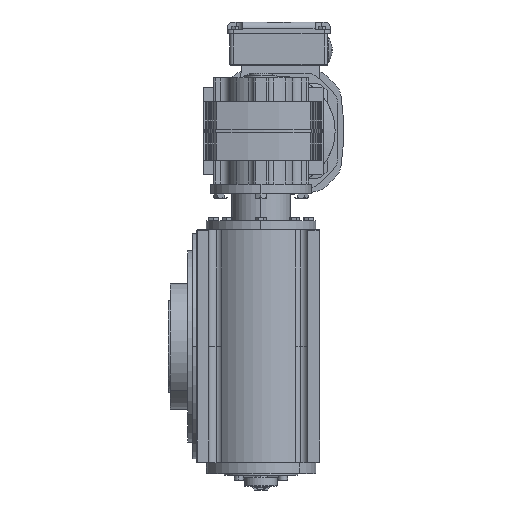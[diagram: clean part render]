
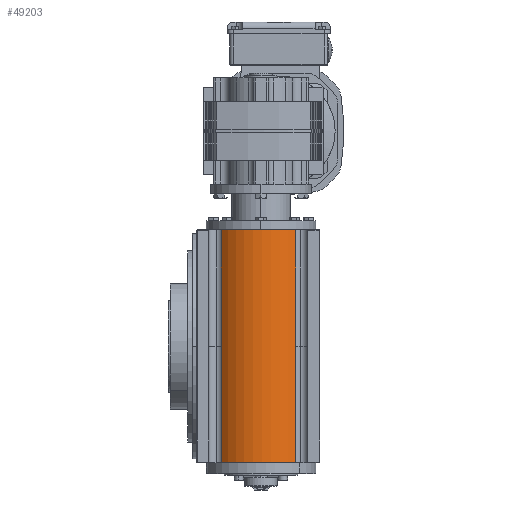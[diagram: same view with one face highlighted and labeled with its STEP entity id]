
A CAD part, left-side view. The second image highlights one B-rep face of the part: STEP entity #49203.
In plain terms, the highlighted cylindrical face has radius 60 mm (diameter 120 mm), a partial arc.
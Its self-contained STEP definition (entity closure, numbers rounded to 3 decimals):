
#2879 = CARTESIAN_POINT ( 'NONE',  ( -126.602, 107.235, 0. ) ) ;
#3955 = CARTESIAN_POINT ( 'NONE',  ( -131.481, 26.059, -121.981 ) ) ;
#5136 = EDGE_CURVE ( 'NONE', #61087, #45679, #66898, .T. ) ;
#7221 = VERTEX_POINT ( 'NONE', #57010 ) ;
#9747 = DIRECTION ( 'NONE',  ( 0., 0., 1. ) ) ;
#10510 = CARTESIAN_POINT ( 'NONE',  ( -131.481, 26.059, -121.981 ) ) ;
#11730 = AXIS2_PLACEMENT_3D ( 'NONE', #30133, #60082, #24308 ) ;
#11855 = AXIS2_PLACEMENT_3D ( 'NONE', #76752, #47089, #70875 ) ;
#12186 = VERTEX_POINT ( 'NONE', #27167 ) ;
#15968 = EDGE_CURVE ( 'NONE', #12186, #7221, #32819, .T. ) ;
#20380 = EDGE_CURVE ( 'NONE', #12186, #35025, #70447, .T. ) ;
#20500 = CARTESIAN_POINT ( 'NONE',  ( -126.602, 107.235, -121.981 ) ) ;
#20869 = CARTESIAN_POINT ( 'NONE',  ( -131.481, 26.059, 127. ) ) ;
#21100 = VECTOR ( 'NONE', #68634, 1000. ) ;
#22258 = LINE ( 'NONE', #39351, #50280 ) ;
#24308 = DIRECTION ( 'NONE',  ( -1., 0., 0. ) ) ;
#25376 = DIRECTION ( 'NONE',  ( 0., 0., 1. ) ) ;
#27167 = CARTESIAN_POINT ( 'NONE',  ( -131.481, 26.059, -127. ) ) ;
#27494 = EDGE_CURVE ( 'NONE', #45679, #7221, #22258, .T. ) ;
#29853 = ORIENTED_EDGE ( 'NONE', *, *, #15968, .F. ) ;
#30133 = CARTESIAN_POINT ( 'NONE',  ( -85., 64., -127. ) ) ;
#30424 = CYLINDRICAL_SURFACE ( 'NONE', #58171, 60. ) ;
#30642 = VERTEX_POINT ( 'NONE', #20869 ) ;
#32819 = CIRCLE ( 'NONE', #11730, 60. ) ;
#33885 = EDGE_CURVE ( 'NONE', #61087, #30642, #44192, .T. ) ;
#35025 = VERTEX_POINT ( 'NONE', #59846 ) ;
#35588 = VECTOR ( 'NONE', #9747, 1000. ) ;
#37372 = FACE_OUTER_BOUND ( 'NONE', #62480, .T. ) ;
#39351 = CARTESIAN_POINT ( 'NONE',  ( -126.602, 107.235, -121.981 ) ) ;
#40626 = ORIENTED_EDGE ( 'NONE', *, *, #5136, .T. ) ;
#42694 = ORIENTED_EDGE ( 'NONE', *, *, #27494, .T. ) ;
#44192 = CIRCLE ( 'NONE', #11855, 60. ) ;
#45679 = VERTEX_POINT ( 'NONE', #2879 ) ;
#47089 = DIRECTION ( 'NONE',  ( 0., 0., 1. ) ) ;
#48775 = ORIENTED_EDGE ( 'NONE', *, *, #72405, .T. ) ;
#49203 = ADVANCED_FACE ( 'NONE', ( #37372 ), #30424, .T. ) ;
#50280 = VECTOR ( 'NONE', #63523, 1000. ) ;
#51296 = LINE ( 'NONE', #3955, #35588 ) ;
#57010 = CARTESIAN_POINT ( 'NONE',  ( -126.602, 107.235, -127. ) ) ;
#58171 = AXIS2_PLACEMENT_3D ( 'NONE', #73248, #25376, #67451 ) ;
#59518 = ORIENTED_EDGE ( 'NONE', *, *, #20380, .T. ) ;
#59846 = CARTESIAN_POINT ( 'NONE',  ( -131.481, 26.059, 0. ) ) ;
#60082 = DIRECTION ( 'NONE',  ( 0., 0., -1. ) ) ;
#61087 = VERTEX_POINT ( 'NONE', #66550 ) ;
#62480 = EDGE_LOOP ( 'NONE', ( #59518, #48775, #74820, #40626, #42694, #29853 ) ) ;
#63523 = DIRECTION ( 'NONE',  ( 0., 0., -1. ) ) ;
#65001 = VECTOR ( 'NONE', #67686, 1000. ) ;
#66550 = CARTESIAN_POINT ( 'NONE',  ( -126.602, 107.235, 127. ) ) ;
#66898 = LINE ( 'NONE', #20500, #65001 ) ;
#67451 = DIRECTION ( 'NONE',  ( 1., 0., 0. ) ) ;
#67686 = DIRECTION ( 'NONE',  ( 0., 0., -1. ) ) ;
#68634 = DIRECTION ( 'NONE',  ( 0., 0., 1. ) ) ;
#70447 = LINE ( 'NONE', #10510, #21100 ) ;
#70875 = DIRECTION ( 'NONE',  ( 1., 0., 0. ) ) ;
#72405 = EDGE_CURVE ( 'NONE', #35025, #30642, #51296, .T. ) ;
#73248 = CARTESIAN_POINT ( 'NONE',  ( -85., 64., -121.981 ) ) ;
#74820 = ORIENTED_EDGE ( 'NONE', *, *, #33885, .F. ) ;
#76752 = CARTESIAN_POINT ( 'NONE',  ( -85., 64., 127. ) ) ;
